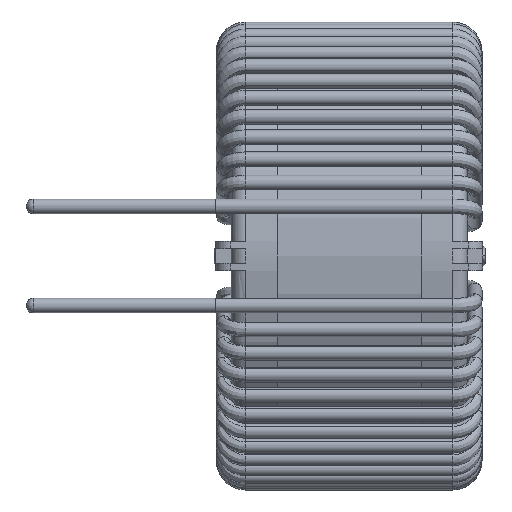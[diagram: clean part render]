
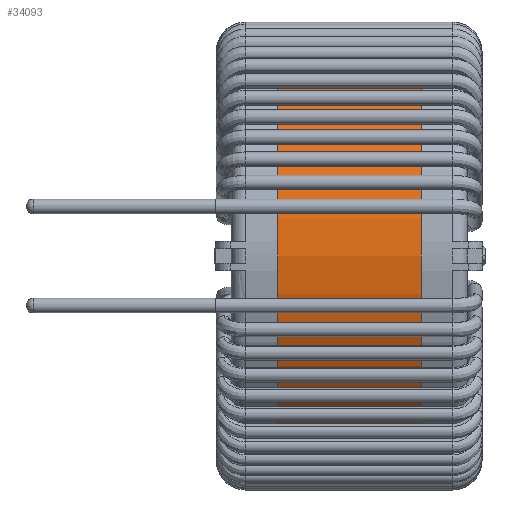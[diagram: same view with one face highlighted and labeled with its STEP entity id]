
A CAD part, left-side view. The second image highlights one B-rep face of the part: STEP entity #34093.
In plain terms, the highlighted cylindrical face has radius 15.328 mm (diameter 30.655 mm), a partial arc.
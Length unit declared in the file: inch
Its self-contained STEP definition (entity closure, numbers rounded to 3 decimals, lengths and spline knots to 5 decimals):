
#282 = VERTEX_POINT ( 'NONE', #42257 ) ;
#398 = DIRECTION ( 'NONE',  ( 0., -1., 0. ) ) ;
#3644 = DIRECTION ( 'NONE',  ( 0., 1., 0. ) ) ;
#3815 = CARTESIAN_POINT ( 'NONE',  ( 0., 0.19685, -0.60344 ) ) ;
#5914 = EDGE_CURVE ( 'NONE', #36677, #48411, #52153, .T. ) ;
#7128 = EDGE_LOOP ( 'NONE', ( #12870, #13108, #24770, #25634 ) ) ;
#7327 = VECTOR ( 'NONE', #398, 39.37008 ) ;
#8025 = VECTOR ( 'NONE', #29227, 39.37008 ) ;
#8184 = DIRECTION ( 'NONE',  ( 0., -1., 0. ) ) ;
#8714 = VERTEX_POINT ( 'NONE', #38555 ) ;
#9019 = FACE_OUTER_BOUND ( 'NONE', #7128, .T. ) ;
#12870 = ORIENTED_EDGE ( 'NONE', *, *, #46815, .F. ) ;
#13108 = ORIENTED_EDGE ( 'NONE', *, *, #26527, .F. ) ;
#17134 = DIRECTION ( 'NONE',  ( 0., 0., 1. ) ) ;
#19903 = AXIS2_PLACEMENT_3D ( 'NONE', #48867, #34366, #29283 ) ;
#22560 = CARTESIAN_POINT ( 'NONE',  ( 0., 0.19685, -0.60344 ) ) ;
#23428 = CARTESIAN_POINT ( 'NONE',  ( 0., 0.19685, 0. ) ) ;
#24770 = ORIENTED_EDGE ( 'NONE', *, *, #5914, .T. ) ;
#25634 = ORIENTED_EDGE ( 'NONE', *, *, #32586, .T. ) ;
#26527 = EDGE_CURVE ( 'NONE', #36677, #282, #34706, .T. ) ;
#26986 = CIRCLE ( 'NONE', #19903, 0.60344 ) ;
#29227 = DIRECTION ( 'NONE',  ( 0., -1., 0. ) ) ;
#29283 = DIRECTION ( 'NONE',  ( 0., 0., 1. ) ) ;
#32586 = EDGE_CURVE ( 'NONE', #48411, #8714, #26986, .T. ) ;
#33749 = AXIS2_PLACEMENT_3D ( 'NONE', #37361, #3644, #17134 ) ;
#34093 = ADVANCED_FACE ( 'NONE', ( #9019 ), #41989, .T. ) ;
#34366 = DIRECTION ( 'NONE',  ( 0., 1., 0. ) ) ;
#34706 = CIRCLE ( 'NONE', #33749, 0.60344 ) ;
#35166 = DIRECTION ( 'NONE',  ( 0., 0., -1. ) ) ;
#35420 = CARTESIAN_POINT ( 'NONE',  ( 0., -0.19685, -0.60344 ) ) ;
#36677 = VERTEX_POINT ( 'NONE', #3815 ) ;
#37361 = CARTESIAN_POINT ( 'NONE',  ( 0., 0.19685, 0. ) ) ;
#38333 = LINE ( 'NONE', #41712, #7327 ) ;
#38555 = CARTESIAN_POINT ( 'NONE',  ( 0., -0.19685, 0.60344 ) ) ;
#41712 = CARTESIAN_POINT ( 'NONE',  ( 0., 0.19685, 0.60344 ) ) ;
#41989 = CYLINDRICAL_SURFACE ( 'NONE', #43113, 0.60344 ) ;
#42257 = CARTESIAN_POINT ( 'NONE',  ( 0., 0.19685, 0.60344 ) ) ;
#43113 = AXIS2_PLACEMENT_3D ( 'NONE', #23428, #8184, #35166 ) ;
#46815 = EDGE_CURVE ( 'NONE', #282, #8714, #38333, .T. ) ;
#48411 = VERTEX_POINT ( 'NONE', #35420 ) ;
#48867 = CARTESIAN_POINT ( 'NONE',  ( 0., -0.19685, 0. ) ) ;
#52153 = LINE ( 'NONE', #22560, #8025 ) ;
